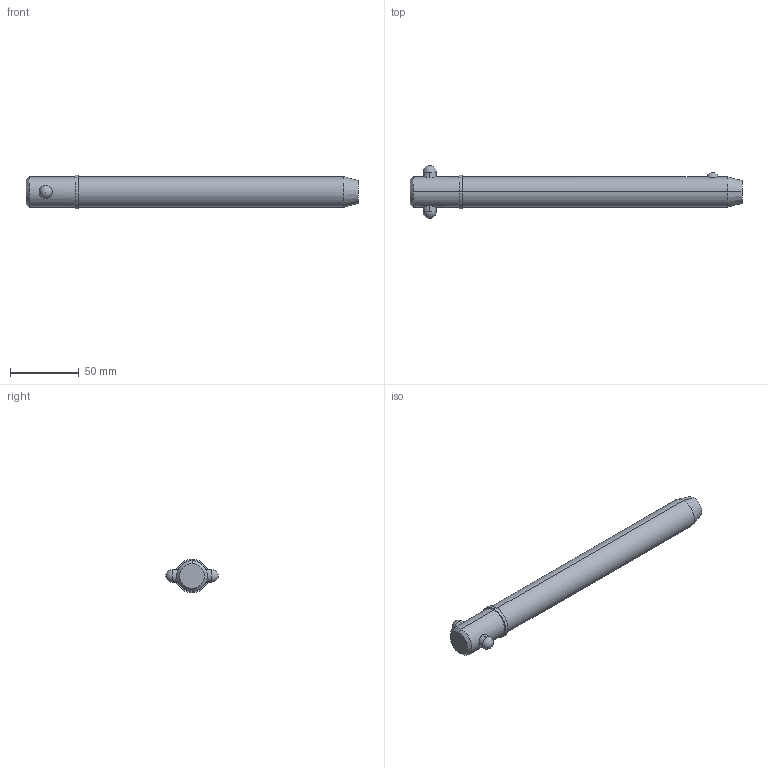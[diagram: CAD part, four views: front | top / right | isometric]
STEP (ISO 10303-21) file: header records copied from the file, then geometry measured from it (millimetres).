
FILE_DESCRIPTION (( 'STEP AP203' ), '1' );
FILE_NAME ('33018.W8870.step', '2024-11-19T17:23:27', ( '' ), ( '' ), 'SwSTEP 2.0', 'SolidWorks 2019', '' );
FILE_SCHEMA (( 'CONFIG_CONTROL_DESIGN' ));
Length unit declared in the file: millimetre
Products named in the file (3): Part2_33018.W8870; Part1_33018.W8870; 33018.W8870
Assembly tree (2 placements, depth 2):
  33018.W8870
    Part1_33018.W8870
    Part2_33018.W8870
Bounding box: 241.3 x 38.1 x 24.45 mm (x, y, z)
Volume: 93796.3 mm3; surface area: 19135.1 mm2
Topology: 2 solids, 2 shells, 22 faces, 47 edges, 30 vertices
Faces by surface type: cylinder 10, sphere 4, cone 4, plane 4
Entity records: 1057 total; most frequent: CARTESIAN_POINT 300, DIRECTION 110, ORIENTED_EDGE 82, AXIS2_PLACEMENT_3D 48, EDGE_CURVE 41, EDGE_LOOP 27, VERTEX_POINT 26, PERSON_AND_ORGANIZATION 26
